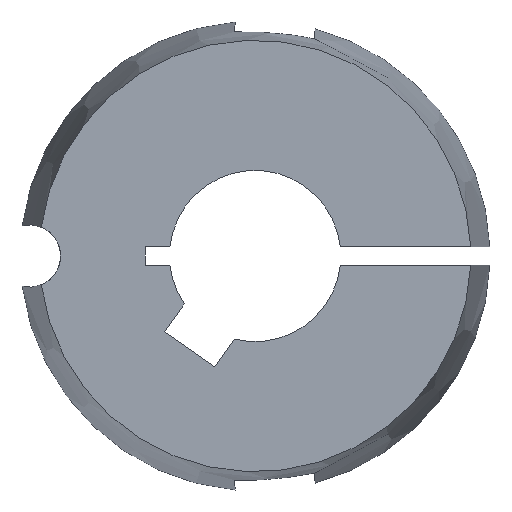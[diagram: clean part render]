
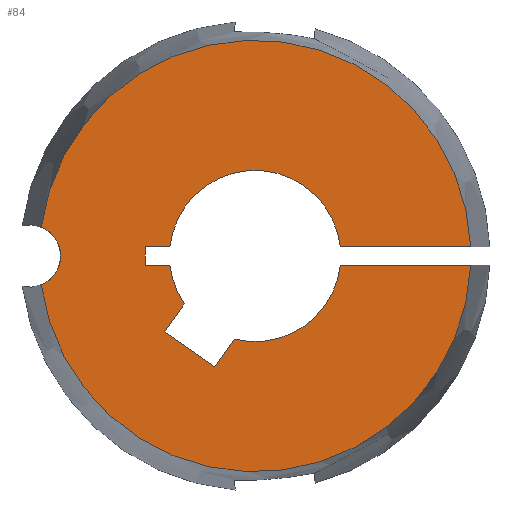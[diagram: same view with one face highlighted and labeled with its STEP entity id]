
A CAD part, left-side view. The second image highlights one B-rep face of the part: STEP entity #84.
In plain terms, the highlighted planar face has unit normal (-1, 0, 0).
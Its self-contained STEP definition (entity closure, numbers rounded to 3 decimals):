
#84 = ADVANCED_FACE( '', ( #114 ), #115, .F. );
#114 = FACE_OUTER_BOUND( '', #154, .T. );
#115 = PLANE( '', #155 );
#154 = EDGE_LOOP( '', ( #251, #252, #253, #254, #255, #256, #257, #258, #259, #260, #261, #262, #263, #264 ) );
#155 = AXIS2_PLACEMENT_3D( '', #265, #266, #267 );
#251 = ORIENTED_EDGE( '', *, *, #349, .T. );
#252 = ORIENTED_EDGE( '', *, *, #381, .F. );
#253 = ORIENTED_EDGE( '', *, *, #352, .T. );
#254 = ORIENTED_EDGE( '', *, *, #365, .T. );
#255 = ORIENTED_EDGE( '', *, *, #363, .T. );
#256 = ORIENTED_EDGE( '', *, *, #360, .T. );
#257 = ORIENTED_EDGE( '', *, *, #369, .T. );
#258 = ORIENTED_EDGE( '', *, *, #382, .T. );
#259 = ORIENTED_EDGE( '', *, *, #383, .T. );
#260 = ORIENTED_EDGE( '', *, *, #384, .T. );
#261 = ORIENTED_EDGE( '', *, *, #385, .T. );
#262 = ORIENTED_EDGE( '', *, *, #386, .T. );
#263 = ORIENTED_EDGE( '', *, *, #354, .T. );
#264 = ORIENTED_EDGE( '', *, *, #387, .F. );
#265 = CARTESIAN_POINT( '', ( -22.3, 0., 0. ) );
#266 = DIRECTION( '', ( 1., 0., 0. ) );
#267 = DIRECTION( '', ( 0., 0., -1. ) );
#349 = EDGE_CURVE( '', #402, #407, #409, .T. );
#352 = EDGE_CURVE( '', #415, #413, #416, .T. );
#354 = EDGE_CURVE( '', #418, #419, #420, .T. );
#360 = EDGE_CURVE( '', #431, #429, #432, .T. );
#363 = EDGE_CURVE( '', #436, #431, #437, .T. );
#365 = EDGE_CURVE( '', #413, #436, #439, .T. );
#369 = EDGE_CURVE( '', #429, #443, #445, .T. );
#381 = EDGE_CURVE( '', #415, #407, #465, .T. );
#382 = EDGE_CURVE( '', #443, #466, #467, .T. );
#383 = EDGE_CURVE( '', #466, #468, #469, .T. );
#384 = EDGE_CURVE( '', #468, #470, #471, .T. );
#385 = EDGE_CURVE( '', #470, #472, #473, .T. );
#386 = EDGE_CURVE( '', #472, #418, #474, .T. );
#387 = EDGE_CURVE( '', #402, #419, #475, .T. );
#402 = VERTEX_POINT( '', #513 );
#407 = VERTEX_POINT( '', #523 );
#409 = CIRCLE( '', #530, 2.55 );
#413 = VERTEX_POINT( '', #535 );
#415 = VERTEX_POINT( '', #538 );
#416 = LINE( '', #539, #540 );
#418 = VERTEX_POINT( '', #548 );
#419 = VERTEX_POINT( '', #549 );
#420 = LINE( '', #550, #551 );
#429 = VERTEX_POINT( '', #569 );
#431 = VERTEX_POINT( '', #572 );
#432 = LINE( '', #573, #574 );
#436 = VERTEX_POINT( '', #580 );
#437 = LINE( '', #581, #582 );
#439 = CIRCLE( '', #585, 7. );
#443 = VERTEX_POINT( '', #590 );
#445 = LINE( '', #593, #594 );
#465 = CIRCLE( '', #617, 17.641 );
#466 = VERTEX_POINT( '', #618 );
#467 = CIRCLE( '', #619, 7. );
#468 = VERTEX_POINT( '', #620 );
#469 = LINE( '', #621, #622 );
#470 = VERTEX_POINT( '', #623 );
#471 = LINE( '', #624, #625 );
#472 = VERTEX_POINT( '', #626 );
#473 = LINE( '', #627, #628 );
#474 = CIRCLE( '', #629, 7. );
#475 = CIRCLE( '', #630, 17.641 );
#513 = CARTESIAN_POINT( '', ( -22.3, 17.483, 2.355 ) );
#523 = CARTESIAN_POINT( '', ( -22.3, 17.483, -2.355 ) );
#530 = AXIS2_PLACEMENT_3D( '', #686, #687, #688 );
#535 = CARTESIAN_POINT( '', ( -22.3, -6.96, -0.75 ) );
#538 = CARTESIAN_POINT( '', ( -22.3, -17.625, -0.75 ) );
#539 = CARTESIAN_POINT( '', ( -22.3, -19.2, -0.75 ) );
#540 = VECTOR( '', #691, 1000. );
#548 = CARTESIAN_POINT( '', ( -22.3, -6.96, 0.75 ) );
#549 = CARTESIAN_POINT( '', ( -22.3, -17.625, 0.75 ) );
#550 = CARTESIAN_POINT( '', ( -22.3, 0., 0.75 ) );
#551 = VECTOR( '', #692, 1000. );
#569 = CARTESIAN_POINT( '', ( -22.3, 7.382, -6.184 ) );
#572 = CARTESIAN_POINT( '', ( -22.3, 3.286, -9.052 ) );
#573 = CARTESIAN_POINT( '', ( -22.3, 3.286, -9.052 ) );
#574 = VECTOR( '', #697, 1000. );
#580 = CARTESIAN_POINT( '', ( -22.3, 1.702, -6.79 ) );
#581 = CARTESIAN_POINT( '', ( -22.3, 1.702, -6.79 ) );
#582 = VECTOR( '', #700, 1000. );
#585 = AXIS2_PLACEMENT_3D( '', #702, #703, #704 );
#590 = CARTESIAN_POINT( '', ( -22.3, 5.798, -3.922 ) );
#593 = CARTESIAN_POINT( '', ( -22.3, 7.382, -6.184 ) );
#594 = VECTOR( '', #710, 1000. );
#617 = AXIS2_PLACEMENT_3D( '', #738, #739, #740 );
#618 = CARTESIAN_POINT( '', ( -22.3, 6.96, -0.75 ) );
#619 = AXIS2_PLACEMENT_3D( '', #741, #742, #743 );
#620 = CARTESIAN_POINT( '', ( -22.3, 9., -0.75 ) );
#621 = CARTESIAN_POINT( '', ( -22.3, 0., -0.75 ) );
#622 = VECTOR( '', #744, 1000. );
#623 = CARTESIAN_POINT( '', ( -22.3, 9., 0.75 ) );
#624 = CARTESIAN_POINT( '', ( -22.3, 9., -0.75 ) );
#625 = VECTOR( '', #745, 1000. );
#626 = CARTESIAN_POINT( '', ( -22.3, 6.96, 0.75 ) );
#627 = CARTESIAN_POINT( '', ( -22.3, 9., 0.75 ) );
#628 = VECTOR( '', #746, 1000. );
#629 = AXIS2_PLACEMENT_3D( '', #747, #748, #749 );
#630 = AXIS2_PLACEMENT_3D( '', #750, #751, #752 );
#686 = CARTESIAN_POINT( '', ( -22.3, 18.46, 0. ) );
#687 = DIRECTION( '', ( 1., 0., 0. ) );
#688 = DIRECTION( '', ( 0., 1., 0. ) );
#691 = DIRECTION( '', ( 0., 1., 0. ) );
#692 = DIRECTION( '', ( 0., -1., 0. ) );
#697 = DIRECTION( '', ( 0., 0.819, 0.574 ) );
#700 = DIRECTION( '', ( 0., 0.574, -0.819 ) );
#702 = CARTESIAN_POINT( '', ( -22.3, 0., 0. ) );
#703 = DIRECTION( '', ( 1., 0., 0. ) );
#704 = DIRECTION( '', ( 0., 0., -1. ) );
#710 = DIRECTION( '', ( 0., -0.574, 0.819 ) );
#738 = CARTESIAN_POINT( '', ( -22.3, 0., 0. ) );
#739 = DIRECTION( '', ( 1., 0., 0. ) );
#740 = DIRECTION( '', ( 0., 0., -1. ) );
#741 = CARTESIAN_POINT( '', ( -22.3, 0., 0. ) );
#742 = DIRECTION( '', ( 1., 0., 0. ) );
#743 = DIRECTION( '', ( 0., 0., -1. ) );
#744 = DIRECTION( '', ( 0., 1., 0. ) );
#745 = DIRECTION( '', ( 0., 0., 1. ) );
#746 = DIRECTION( '', ( 0., -1., 0. ) );
#747 = CARTESIAN_POINT( '', ( -22.3, 0., 0. ) );
#748 = DIRECTION( '', ( 1., 0., 0. ) );
#749 = DIRECTION( '', ( 0., 0., -1. ) );
#750 = CARTESIAN_POINT( '', ( -22.3, 0., 0. ) );
#751 = DIRECTION( '', ( 1., 0., 0. ) );
#752 = DIRECTION( '', ( 0., 0., -1. ) );
